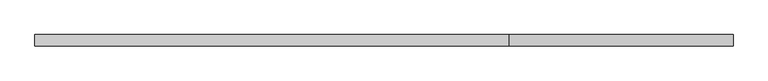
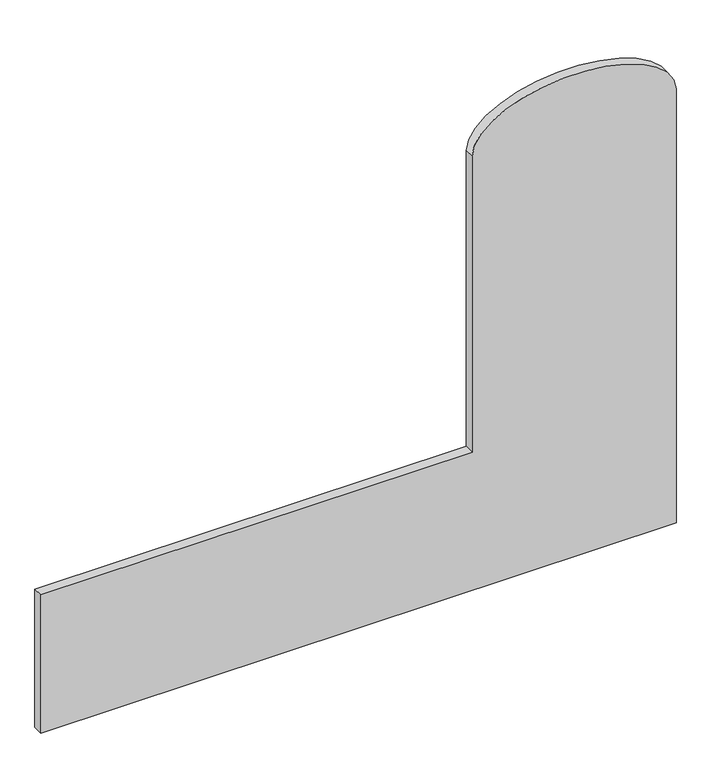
"""IFC4 building model written with IfcOpenShell, lengths in millimetres: proxy geometry, FOUNDATION^PO3_WIRE WALL-WORKSURFACE."""

from ifc_helpers import new_model, si_unit, point, frame, origin, place, context, project, spatial, ellipse_curve, trimmed, source, transform, mapped, element, save
from ifc_brep_helpers import plane_surface, extruded_surface, advanced_brep


def generic_models_7a0e2da2(model_context):
    return source(origin(), model_context, "Body", "AdvancedBrep", [
        advanced_brep(
        [(1612.9, 38.1, -1358.9), (0.0, 38.1, -1358.9), (0.0, 0.0, -1358.9), (1612.9, 0.0, -1358.9), (1612.9, 0.0, -190.5), (1612.9, 38.1, -190.5), (2374.9, 0.0, -190.5), (2374.9, 38.1, -190.5), (0.0, 0.0, -1905.0), (2374.9, 0.0, -1905.0), (2374.9, 38.1, -1905.0), (0.0, 38.1, -1905.0)],
        [
            (0, 1),
            (1, 2),
            (2, 3),
            (3, 0),
            (3, 4),
            (4, 5),
            (5, 0),
            (4, 6, ellipse_curve(frame((1993.9, 0.0, -190.5), z_axis=(0.0, 1.0, 0.0), x_axis=(-1.0, 0.0, 0.0)), 381.0, 190.5)),
            (6, 7),
            (7, 5, ellipse_curve(frame((1993.9, 38.1, -190.5), z_axis=(0.0, -1.0, 0.0), x_axis=(-1.0, 0.0, 0.0)), 381.0, 190.5)),
            (2, 8),
            (8, 9),
            (9, 6),
            (7, 10),
            (10, 11),
            (11, 1),
            (11, 8),
            (10, 9),
        ],
        [
            plane_surface(frame((0.0, 38.1, -1358.9), z_axis=(0.0, 0.0, 1.0), x_axis=(1.0, 0.0, 0.0))),
            plane_surface(frame((1612.9, 38.1, -901.7), z_axis=(-1.0, 0.0, 0.0), x_axis=(0.0, 0.0, 1.0))),
            extruded_surface(trimmed(ellipse_curve(frame((1993.9, 38.1, -190.5), z_axis=(0.0, -1.0, 0.0), x_axis=(-1.0, 0.0, 0.0)), 381.0, 190.5), [point((2374.9, 38.1, -190.5))], [point((1612.9, 38.1, -190.5))], True, "CARTESIAN"), (0.0, -304.8, 0.0), 304.8),
            plane_surface(frame((1187.45, 0.0, -952.5), z_axis=(0.0, -1.0, 0.0), x_axis=(0.0, 0.0, 1.0))),
            plane_surface(frame((1187.45, 38.1, -952.5), z_axis=(0.0, 1.0, 0.0), x_axis=(0.0, 0.0, 1.0))),
            plane_surface(frame((0.0, 0.0, -1905.0), z_axis=(-1.0, 0.0, 0.0), x_axis=(0.0, 0.0, 1.0))),
            plane_surface(frame((2374.9, 0.0, -1905.0), z_axis=(0.0, 0.0, -1.0), x_axis=(-1.0, 0.0, 0.0))),
            plane_surface(frame((2374.9, 0.0, 0.0), z_axis=(1.0, 0.0, 0.0), x_axis=(0.0, 0.0, -1.0))),
        ],
        [
            (0, [[1, 2, 3, 4]]),
            (1, [[-4, 5, 6, 7]]),
            (2, [[8, 9, 10, -6]]),
            (3, [[-3, 11, 12, 13, -8, -5]]),
            (4, [[-1, -7, -10, 14, 15, 16]]),
            (5, [[-2, -16, 17, -11]]),
            (6, [[-12, -17, -15, 18]]),
            (7, [[-9, -13, -18, -14]]),
        ],
    ),
    ])


if __name__ == "__main__":
    model = new_model("IFC4")
    model_context = context("Model", 3, world=origin())
    ifc_project = project(units=[si_unit("LENGTHUNIT", "METRE", prefix="MILLI")], contexts=[model_context])
    site = spatial("IfcSite", under=ifc_project)
    building = spatial("IfcBuilding", under=site)
    placement = place(None, origin())
    generic_models_shape = generic_models_7a0e2da2(model_context)
    element("IfcBuildingElementProxy", 1, Name="FOUNDATION^PO3_WIRE WALL-WORKSURFACE", ObjectType="FOUNDATION^PO3_WIRE WALL-WORKSURFACE", at=placement, inside=building, context=model_context, shape_type="MappedRepresentation", body=[
        mapped(generic_models_shape, transform((0.0, 0.0, 0.0), x_axis=(1.0, 0.0, 0.0), y_axis=(0.0, 1.0, 0.0), z_axis=(0.0, 0.0, 1.0))),
    ])
    save(model, "model.ifc")
